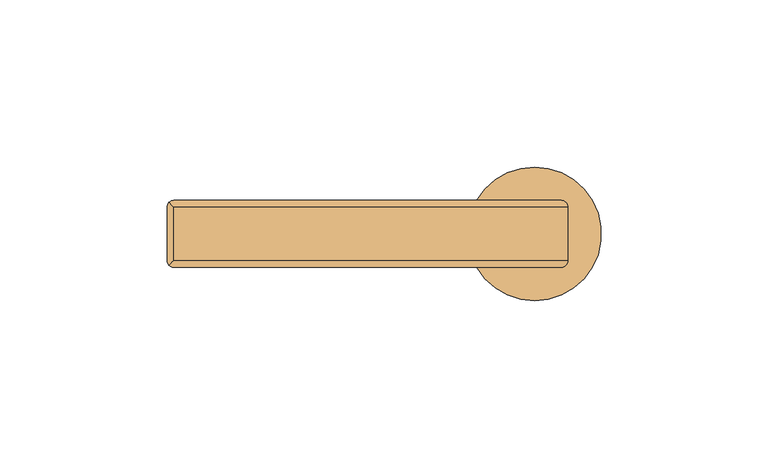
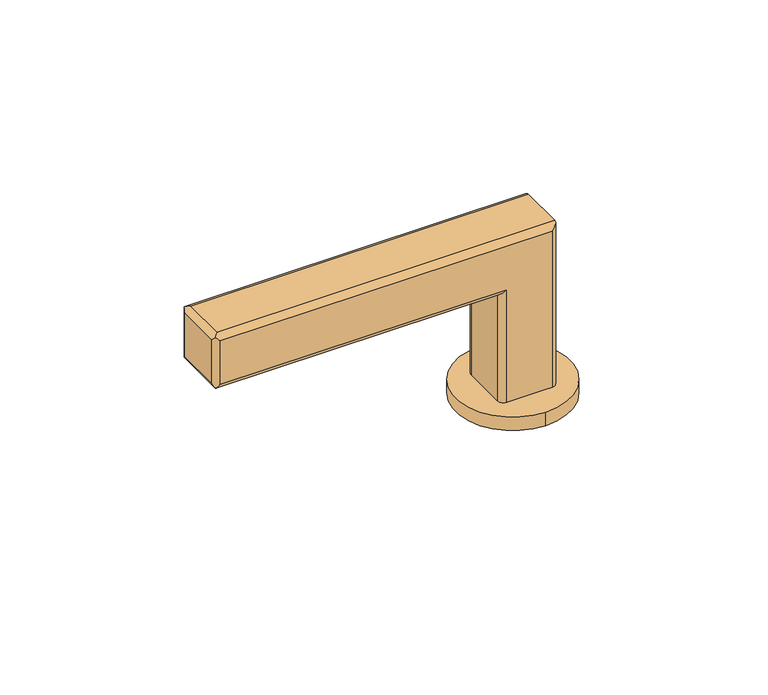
"""IFC4 building model written with IfcOpenShell, lengths in millimetres: door geometry, VERTI - kování M&T : KVADRA."""

from ifc_helpers import new_model, si_unit, point, frame, origin, origin_with_axes, origin_2d, place, context, project, spatial, circle_curve, ellipse_curve, trimmed, segment, composite_curve, outline, extrude, source, transform, mapped, element, save
from ifc_brep_helpers import plane_surface, cylinder_surface, advanced_brep


def door_7f16d04f(model_context):
    return source(origin(), model_context, "Body", "SolidModel", [
        extrude(outline(composite_curve([segment(trimmed(circle_curve(origin_2d(), 20.0), [point((0.0, -20.0))], [point((0.0, 20.0))], False, "CARTESIAN"), True, "CONTINUOUS"), segment(trimmed(circle_curve(origin_2d(), 20.0), [point((0.0, 20.0))], [point((0.0, -20.0))], False, "CARTESIAN"), True, "CONTINUOUS")], self_intersect=False)), origin_with_axes(), (0.0, 0.0, 1.0), 5.0),
        advanced_brep(
        [(-8.0, -10.0, 0.0), (-10.0, -8.0, 0.0), (-10.0, 8.0, 0.0), (-8.0, 10.0, 0.0), (8.0, 10.0, 0.0), (10.0, 8.0, 0.0), (10.0, -8.0, 0.0), (8.0, -10.0, 0.0), (8.0, -10.0, 63.0), (-108.0, -10.0, 63.0), (-108.0, -10.0, 47.0), (-8.0, -10.0, 47.0), (10.0, -8.0, 65.0), (10.0, 8.0, 65.0), (8.0, 10.0, 63.0), (-8.0, 10.0, 47.0), (-108.0, 10.0, 47.0), (-108.0, 10.0, 63.0), (-10.0, 8.0, 45.0), (-10.0, -8.0, 45.0), (-110.0, -8.0, 47.0), (-110.0, -8.0, 63.0), (-110.0, 8.0, 63.0), (-110.0, 8.0, 47.0), (-108.0, -8.0, 65.0), (-109.4142136, -9.4142136, 64.4142136), (-108.0, 8.0, 65.0), (-109.4142136, 9.4142136, 64.4142136), (-108.0, 8.0, 45.0), (-109.4142136, 9.4142136, 45.5857864), (-108.0, -8.0, 45.0), (-109.4142136, -9.4142136, 45.5857864)],
        [
            (0, 1, circle_curve(frame((-8.0, -8.0, 0.0), z_axis=(0.0, 0.0, -1.0), x_axis=(1.0, 0.0, 0.0)), 2.0)),
            (1, 2),
            (2, 3, circle_curve(frame((-8.0, 8.0, 0.0), z_axis=(0.0, 0.0, -1.0), x_axis=(1.0, 0.0, 0.0)), 2.0)),
            (3, 4),
            (4, 5, circle_curve(frame((8.0, 8.0, 0.0), z_axis=(0.0, 0.0, -1.0), x_axis=(1.0, 0.0, 0.0)), 2.0)),
            (5, 6),
            (6, 7, circle_curve(frame((8.0, -8.0, 0.0), z_axis=(0.0, 0.0, -1.0), x_axis=(1.0, 0.0, 0.0)), 2.0)),
            (7, 0),
            (7, 8),
            (8, 9),
            (9, 10),
            (10, 11),
            (11, 0),
            (6, 12),
            (12, 8, ellipse_curve(frame((8.0, -8.0, 63.0), z_axis=(0.7071067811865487, 0.0, -0.7071067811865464), x_axis=(-0.7071067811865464, 0.0, -0.7071067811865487)), 2.8284271, 2.0)),
            (5, 13),
            (13, 12),
            (4, 14),
            (14, 13, ellipse_curve(frame((8.0, 8.0, 63.0), z_axis=(0.7071067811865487, 0.0, -0.7071067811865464), x_axis=(-0.7071067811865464, 0.0, -0.7071067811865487)), 2.8284271, 2.0)),
            (3, 15),
            (15, 16),
            (16, 17),
            (17, 14),
            (2, 18),
            (18, 15, ellipse_curve(frame((-8.0, 8.0, 47.0), z_axis=(0.7071067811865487, 0.0, -0.7071067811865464), x_axis=(-0.7071067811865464, 0.0, -0.7071067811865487)), 2.8284271, 2.0)),
            (1, 19),
            (19, 18),
            (11, 19, ellipse_curve(frame((-8.0, -8.0, 47.0), z_axis=(0.7071067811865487, 0.0, -0.7071067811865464), x_axis=(-0.7071067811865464, 0.0, -0.7071067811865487)), 2.8284271, 2.0)),
            (20, 21),
            (21, 22),
            (22, 23),
            (23, 20),
            (12, 24),
            (24, 25, ellipse_curve(frame((-108.0, -8.0, 63.0), z_axis=(0.7071067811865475, -0.7071067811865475, 0.0), x_axis=(0.7071067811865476, 0.7071067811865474, 0.0)), 2.8284271, 2.0)),
            (25, 9, ellipse_curve(frame((-108.0, -8.0, 63.0), z_axis=(0.7071067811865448, 0.0, 0.7071067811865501), x_axis=(0.7071067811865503, 0.0, -0.7071067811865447)), 2.8284271, 2.0)),
            (13, 26),
            (26, 24),
            (17, 27, ellipse_curve(frame((-108.0, 8.0, 63.0), z_axis=(0.7071067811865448, 0.0, 0.7071067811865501), x_axis=(0.7071067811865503, 0.0, -0.7071067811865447)), 2.8284271, 2.0)),
            (27, 26, ellipse_curve(frame((-108.0, 8.0, 63.0), z_axis=(0.7071067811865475, 0.7071067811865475, 0.0), x_axis=(0.7071067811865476, -0.7071067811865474, 0.0)), 2.8284271, 2.0)),
            (18, 28),
            (28, 29, ellipse_curve(frame((-108.0, 8.0, 47.0), z_axis=(0.7071067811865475, 0.7071067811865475, 0.0), x_axis=(0.7071067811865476, -0.7071067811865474, 0.0)), 2.8284271, 2.0)),
            (29, 16, ellipse_curve(frame((-108.0, 8.0, 47.0), z_axis=(0.7071067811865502, 0.0, -0.7071067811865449), x_axis=(0.7071067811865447, 0.0, 0.7071067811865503)), 2.8284271, 2.0)),
            (19, 30),
            (30, 28),
            (10, 31, ellipse_curve(frame((-108.0, -8.0, 47.0), z_axis=(0.7071067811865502, 0.0, -0.7071067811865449), x_axis=(0.7071067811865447, 0.0, 0.7071067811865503)), 2.8284271, 2.0)),
            (31, 30, ellipse_curve(frame((-108.0, -8.0, 47.0), z_axis=(0.7071067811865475, -0.7071067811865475, 0.0), x_axis=(0.7071067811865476, 0.7071067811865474, 0.0)), 2.8284271, 2.0)),
            (31, 20, ellipse_curve(frame((-108.0, -8.0, 47.0), z_axis=(0.0, 0.7071067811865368, -0.7071067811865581), x_axis=(0.0, 0.7071067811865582, 0.7071067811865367)), 2.8284271, 2.0)),
            (23, 29, ellipse_curve(frame((-108.0, 8.0, 47.0), z_axis=(0.0, -0.7071067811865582, -0.7071067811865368), x_axis=(0.0, 0.7071067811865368, -0.7071067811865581)), 2.8284271, 2.0)),
            (22, 27, ellipse_curve(frame((-108.0, 8.0, 63.0), z_axis=(0.0, 0.7071067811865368, -0.7071067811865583), x_axis=(0.0, 0.7071067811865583, 0.7071067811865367)), 2.8284271, 2.0)),
            (21, 25, ellipse_curve(frame((-108.0, -8.0, 63.0), z_axis=(0.0, 0.7071067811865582, 0.7071067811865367), x_axis=(0.0, -0.7071067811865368, 0.7071067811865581)), 2.8284271, 2.0)),
        ],
        [
            plane_surface(frame((0.0, 0.0, 0.0), z_axis=(0.0, 0.0, -1.0), x_axis=(0.0, -1.0, 0.0))),
            plane_surface(frame((-8.0, -10.0, 0.0), z_axis=(0.0, -1.0, 0.0), x_axis=(0.0, 0.0, 1.0))),
            cylinder_surface(frame((8.0, -8.0, 0.0), z_axis=(0.0, 0.0, -1.0), x_axis=(1.0, 0.0, 0.0)), 2.0),
            plane_surface(frame((10.0, -8.0, 0.0), z_axis=(1.0, 0.0, 0.0), x_axis=(0.0, 0.0, 1.0))),
            cylinder_surface(frame((8.0, 8.0, 0.0), z_axis=(0.0, 0.0, -1.0), x_axis=(1.0, 0.0, 0.0)), 2.0),
            plane_surface(frame((8.0, 10.0, 0.0), z_axis=(0.0, 1.0, 0.0), x_axis=(0.0, 0.0, 1.0))),
            cylinder_surface(frame((-8.0, 8.0, 0.0), z_axis=(0.0, 0.0, -1.0), x_axis=(1.0, 0.0, 0.0)), 2.0),
            plane_surface(frame((-10.0, 8.0, 0.0), z_axis=(-1.0, 0.0, 0.0), x_axis=(0.0, 0.0, 1.0))),
            cylinder_surface(frame((-8.0, -8.0, 0.0), z_axis=(0.0, 0.0, -1.0), x_axis=(1.0, 0.0, 0.0)), 2.0),
            plane_surface(frame((-110.0, 0.0, 55.0), z_axis=(-1.0, 0.0, 0.0), x_axis=(0.0, -1.0, 0.0))),
            cylinder_surface(frame((0.0, -8.0, 63.0), z_axis=(1.0, 0.0, 0.0), x_axis=(0.0, 0.0, 1.0)), 2.0),
            plane_surface(frame((10.0, -8.0, 65.0), z_axis=(0.0, 0.0, 1.0), x_axis=(-1.0, 0.0, 0.0))),
            cylinder_surface(frame((0.0, 8.0, 63.0), z_axis=(1.0, 0.0, 0.0), x_axis=(0.0, 0.0, 1.0)), 2.0),
            cylinder_surface(frame((0.0, 8.0, 47.0), z_axis=(1.0, 0.0, 0.0), x_axis=(0.0, 0.0, 1.0)), 2.0),
            plane_surface(frame((-10.0, 8.0, 45.0), z_axis=(0.0, 0.0, -1.0), x_axis=(-1.0, 0.0, 0.0))),
            cylinder_surface(frame((0.0, -8.0, 47.0), z_axis=(1.0, 0.0, 0.0), x_axis=(0.0, 0.0, 1.0)), 2.0),
            cylinder_surface(frame((-108.0, -10.0, 47.0), z_axis=(0.0, 1.0, 0.0), x_axis=(1.0, 0.0, 0.0)), 2.0),
            cylinder_surface(frame((-108.0, 8.0, 45.0), z_axis=(0.0, 0.0, 1.0), x_axis=(1.0, 0.0, 0.0)), 2.0),
            cylinder_surface(frame((-108.0, 10.0, 63.0), z_axis=(0.0, -1.0, 0.0), x_axis=(1.0, 0.0, 0.0)), 2.0),
            cylinder_surface(frame((-108.0, -8.0, 65.0), z_axis=(0.0, 0.0, -1.0), x_axis=(1.0, 0.0, 0.0)), 2.0),
        ],
        [
            (0, [[1, 2, 3, 4, 5, 6, 7, 8]]),
            (1, [[9, 10, 11, 12, 13, -8]]),
            (2, [[14, 15, -9, -7]]),
            (3, [[16, 17, -14, -6]]),
            (4, [[18, 19, -16, -5]]),
            (5, [[20, 21, 22, 23, -18, -4]]),
            (6, [[24, 25, -20, -3]]),
            (7, [[26, 27, -24, -2]]),
            (8, [[-13, 28, -26, -1]]),
            (9, [[29, 30, 31, 32]]),
            (10, [[33, 34, 35, -10, -15]]),
            (11, [[36, 37, -33, -17]]),
            (12, [[-23, 38, 39, -36, -19]]),
            (13, [[40, 41, 42, -21, -25]]),
            (14, [[43, 44, -40, -27]]),
            (15, [[-12, 45, 46, -43, -28]]),
            (16, [[-41, -44, -46, 47, -32, 48]]),
            (17, [[-31, 49, -38, -22, -42, -48]]),
            (18, [[-30, 50, -34, -37, -39, -49]]),
            (19, [[-29, -47, -45, -11, -35, -50]]),
        ],
    ),
    ])


if __name__ == "__main__":
    model = new_model("IFC4")
    model_context = context("Model", 3, world=origin())
    ifc_project = project(units=[si_unit("LENGTHUNIT", "METRE", prefix="MILLI")], contexts=[model_context])
    site = spatial("IfcSite", under=ifc_project)
    building = spatial("IfcBuilding", under=site)
    placement = place(None, origin())
    door_shape = door_7f16d04f(model_context)
    element("IfcDoor", 1, ObjectType="VERTI - kování M&T : KVADRA", at=placement, inside=building, context=model_context, shape_type="MappedRepresentation", body=[
        mapped(door_shape, transform((0.0, 0.0, 0.0), x_axis=(1.0, 0.0, 0.0), y_axis=(0.0, 1.0, 0.0), z_axis=(0.0, 0.0, 1.0))),
    ])
    save(model, "model.ifc")
